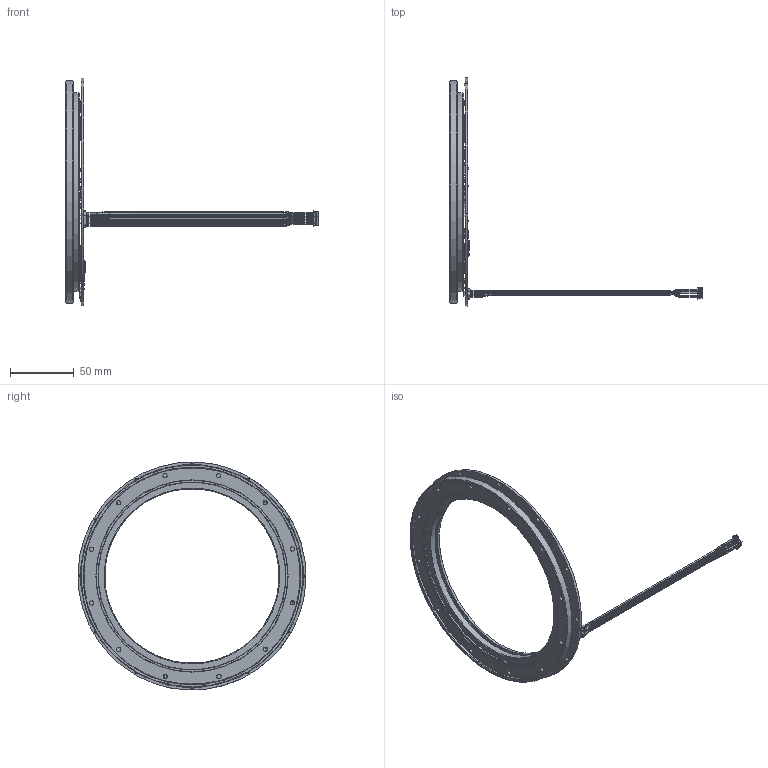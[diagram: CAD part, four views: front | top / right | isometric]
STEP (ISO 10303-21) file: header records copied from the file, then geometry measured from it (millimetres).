
FILE_DESCRIPTION(/* description */ (''),/* implementation_level */ '2;1');
FILE_NAME(/* name */ 'EAS-050.stp',/* time_stamp */ '2025-11-03T16:04:32+08:00',/* author */ (''),/* organization */ (''),/* preprocessor_version */ 'ST-DEVELOPER v15',/* originating_system */ 'SIEMENS PLM Software NX 8.5',/* authorisation */ '');
FILE_SCHEMA (('AUTOMOTIVE_DESIGN { 1 0 10303 214 3 1 1 1 }'));
Products named in the file (1): LeiX17B4F3464sq3
Bounding box: 198 x 178.93 x 178.89 mm (x, y, z)
Volume: 76313.2 mm3; surface area: 67157.9 mm2
Topology: 338 solids, 346 shells, 5442 faces, 13483 edges, 8550 vertices
Faces by surface type: plane 3994, cylinder 1059, sphere 252, bspline 109, extrusion 12, cone 8, torus 8
Full cylindrical faces by diameter (mm): 0.35 x12, 0.56 x1, 0.6 x12, 0.9 x48, 1 x2, 3.4 x12, 3.5 x12, 137 x2, 139 x1, 147 x1, 150.5 x1, 155 x1, 156 x1, 170 x1, 175 x1
Entity records: 168821 total; most frequent: CARTESIAN_POINT 37189, ORIENTED_EDGE 26018, DIRECTION 25273, EDGE_CURVE 13009, VECTOR 10481, LINE 10469, VERTEX_POINT 8447, AXIS2_PLACEMENT_3D 7396
